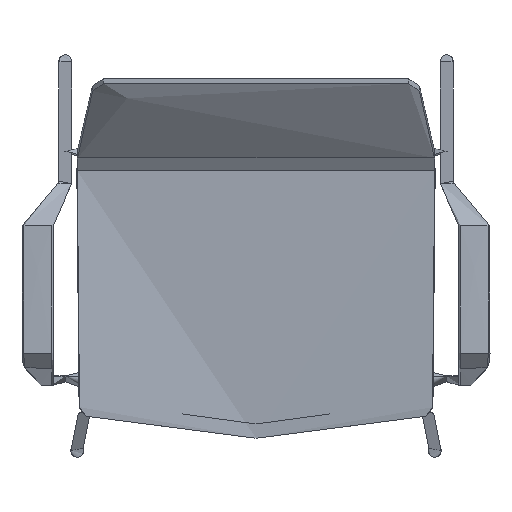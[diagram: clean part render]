
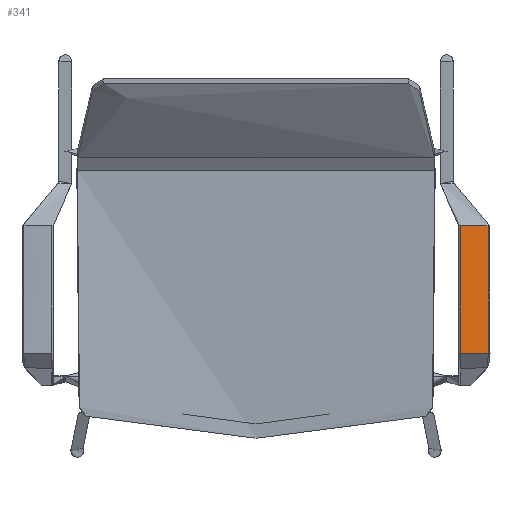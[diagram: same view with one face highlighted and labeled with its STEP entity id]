
A CAD part, top view. The second image highlights one B-rep face of the part: STEP entity #341.
In plain terms, the highlighted free-form (B-spline) face has degree [2, 3] with [3, 4] control points.
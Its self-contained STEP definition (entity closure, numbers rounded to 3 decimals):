
#107=B_SPLINE_CURVE_WITH_KNOTS('',3,(#5325,#5326,#5327,#5328,#5329,#5330,
#5331,#5332,#5333,#5334,#5335,#5336,#5337,#5338,#5339,#5340,#5341,#5342,
#5343,#5344,#5345,#5346),.UNSPECIFIED.,.F.,.F.,(4,2,2,2,2,2,2,2,2,2,4),
(43.85,44.247,45.237,49.198,53.158,
57.119,61.079,65.04,69.,69.99,
70.419),.UNSPECIFIED.);
#341=ADVANCED_FACE('',(#518),#2522,.T.);
#518=FACE_OUTER_BOUND('',#695,.T.);
#695=EDGE_LOOP('',(#1010,#1011,#1012,#1013));
#1010=ORIENTED_EDGE('',*,*,#1635,.T.);
#1011=ORIENTED_EDGE('',*,*,#1679,.F.);
#1012=ORIENTED_EDGE('',*,*,#1671,.F.);
#1013=ORIENTED_EDGE('',*,*,#1692,.F.);
#1635=EDGE_CURVE('',#2290,#2291,#107,.T.);
#1671=EDGE_CURVE('',#2283,#2284,#2046,.T.);
#1679=EDGE_CURVE('',#2284,#2291,#2054,.T.);
#1692=EDGE_CURVE('',#2290,#2283,#2065,.T.);
#2046=(
BOUNDED_CURVE()
B_SPLINE_CURVE(2,(#5622,#5623,#5624),.UNSPECIFIED.,.F.,.F.)
B_SPLINE_CURVE_WITH_KNOTS((3,3),(5.503,40.867),
 .UNSPECIFIED.)
CURVE()
GEOMETRIC_REPRESENTATION_ITEM()
RATIONAL_B_SPLINE_CURVE((1.,0.999,1.))
REPRESENTATION_ITEM('')
);
#2054=(
BOUNDED_CURVE()
B_SPLINE_CURVE(3,(#5651,#5652,#5653,#5654),.UNSPECIFIED.,.F.,.F.)
B_SPLINE_CURVE_WITH_KNOTS((4,4),(0.,160.849),
 .UNSPECIFIED.)
CURVE()
GEOMETRIC_REPRESENTATION_ITEM()
RATIONAL_B_SPLINE_CURVE((1.,1.,1.,1.))
REPRESENTATION_ITEM('')
);
#2065=(
BOUNDED_CURVE()
B_SPLINE_CURVE(3,(#5709,#5710,#5711,#5712),.UNSPECIFIED.,.F.,.F.)
B_SPLINE_CURVE_WITH_KNOTS((4,4),(12.598,173.362),
 .UNSPECIFIED.)
CURVE()
GEOMETRIC_REPRESENTATION_ITEM()
RATIONAL_B_SPLINE_CURVE((1.,1.,1.,1.))
REPRESENTATION_ITEM('')
);
#2283=VERTEX_POINT('',#5170);
#2284=VERTEX_POINT('',#5171);
#2290=VERTEX_POINT('',#5177);
#2291=VERTEX_POINT('',#5178);
#2522=(
BOUNDED_SURFACE()
B_SPLINE_SURFACE(2,3,((#4806,#4807,#4808,#4809),(#4810,#4811,#4812,#4813),
(#4814,#4815,#4816,#4817)),.UNSPECIFIED.,.F.,.F.,.F.)
B_SPLINE_SURFACE_WITH_KNOTS((3,3),(4,4),(0.,43.067),(0.,173.567),
 .UNSPECIFIED.)
GEOMETRIC_REPRESENTATION_ITEM()
RATIONAL_B_SPLINE_SURFACE(((1.,1.,1.,1.),(0.999,0.999,
0.999,0.999),(1.,1.,1.,1.)))
REPRESENTATION_ITEM('')
SURFACE()
);
#4806=CARTESIAN_POINT('',(298.,69.895,643.014));
#4807=CARTESIAN_POINT('',(298.,12.151,646.055));
#4808=CARTESIAN_POINT('',(298.,-45.665,647.709));
#4809=CARTESIAN_POINT('',(298.,-103.488,647.973));
#4810=CARTESIAN_POINT('',(276.447,69.887,642.853));
#4811=CARTESIAN_POINT('',(276.447,12.145,645.894));
#4812=CARTESIAN_POINT('',(276.447,-45.668,647.548));
#4813=CARTESIAN_POINT('',(276.447,-103.489,647.812));
#4814=CARTESIAN_POINT('',(255.,70.,645.));
#4815=CARTESIAN_POINT('',(255.,12.224,648.043));
#4816=CARTESIAN_POINT('',(255.,-45.624,649.698));
#4817=CARTESIAN_POINT('',(255.,-103.479,649.962));
#5170=CARTESIAN_POINT('',(292.498,-103.488,647.97));
#5171=CARTESIAN_POINT('',(257.189,-103.48,649.749));
#5177=CARTESIAN_POINT('',(291.967,57.292,643.656));
#5178=CARTESIAN_POINT('',(257.189,57.386,645.429));
#5325=CARTESIAN_POINT('',(291.967,57.292,643.656));
#5326=CARTESIAN_POINT('',(291.793,57.293,643.661));
#5327=CARTESIAN_POINT('',(291.62,57.293,643.659));
#5328=CARTESIAN_POINT('',(291.013,57.293,643.666));
#5329=CARTESIAN_POINT('',(290.58,57.293,643.67));
#5330=CARTESIAN_POINT('',(288.417,57.295,643.696));
#5331=CARTESIAN_POINT('',(286.686,57.297,643.728));
#5332=CARTESIAN_POINT('',(283.226,57.302,643.815));
#5333=CARTESIAN_POINT('',(281.496,57.305,643.869));
#5334=CARTESIAN_POINT('',(278.037,57.312,644.001));
#5335=CARTESIAN_POINT('',(276.308,57.316,644.077));
#5336=CARTESIAN_POINT('',(272.851,57.326,644.253));
#5337=CARTESIAN_POINT('',(271.123,57.331,644.353));
#5338=CARTESIAN_POINT('',(267.668,57.342,644.573));
#5339=CARTESIAN_POINT('',(265.942,57.349,644.695));
#5340=CARTESIAN_POINT('',(262.49,57.362,644.96));
#5341=CARTESIAN_POINT('',(260.765,57.37,645.104));
#5342=CARTESIAN_POINT('',(258.61,57.38,645.298));
#5343=CARTESIAN_POINT('',(258.18,57.382,645.338));
#5344=CARTESIAN_POINT('',(257.562,57.385,645.394));
#5345=CARTESIAN_POINT('',(257.375,57.386,645.414));
#5346=CARTESIAN_POINT('',(257.189,57.386,645.429));
#5622=CARTESIAN_POINT('',(292.498,-103.488,647.97));
#5623=CARTESIAN_POINT('',(274.804,-103.488,648.08));
#5624=CARTESIAN_POINT('',(257.189,-103.48,649.749));
#5651=CARTESIAN_POINT('',(257.189,-103.48,649.749));
#5652=CARTESIAN_POINT('',(257.189,-49.835,649.504));
#5653=CARTESIAN_POINT('',(257.189,3.805,648.063));
#5654=CARTESIAN_POINT('',(257.189,57.386,645.429));
#5709=CARTESIAN_POINT('',(291.967,57.292,643.656));
#5710=CARTESIAN_POINT('',(292.291,3.74,646.286));
#5711=CARTESIAN_POINT('',(292.468,-49.871,647.725));
#5712=CARTESIAN_POINT('',(292.498,-103.488,647.97));
